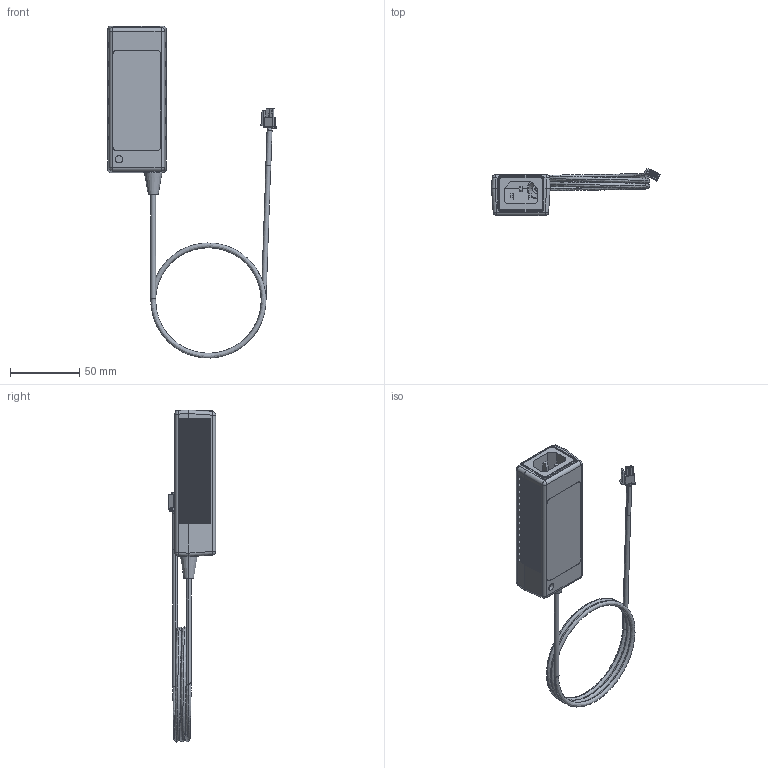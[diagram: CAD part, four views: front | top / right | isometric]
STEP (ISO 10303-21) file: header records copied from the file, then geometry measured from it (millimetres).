
FILE_DESCRIPTION (( 'STEP AP214' ), '1' );
FILE_NAME ('OBIS Power Supply.STEP', '2012-01-18T18:43:23', ( 'coherent' ), ( '' ), 'SwSTEP 2.0', 'SolidWorks 2012', '' );
FILE_SCHEMA (( 'AUTOMOTIVE_DESIGN' ));
Length unit declared in the file: inch
Products named in the file (1): OBIS Power Supply
Bounding box: 121.89 x 34.19 x 239.6 mm (x, y, z)
Surface area: 37587.2 mm2 (no closed solid volume)
Topology: 0 solids, 10 shells, 710 faces, 3539 edges, 2606 vertices
Faces by surface type: plane 604, cylinder 81, bspline 15, sphere 8, cone 2
Entity records: 47102 total; most frequent: CARTESIAN_POINT 11072, ORIENTED_EDGE 5215, DIRECTION 4938, EDGE_CURVE 3531, LINE 3210, VECTOR 3210, VERTEX_POINT 2606, AXIS2_PLACEMENT_3D 864
